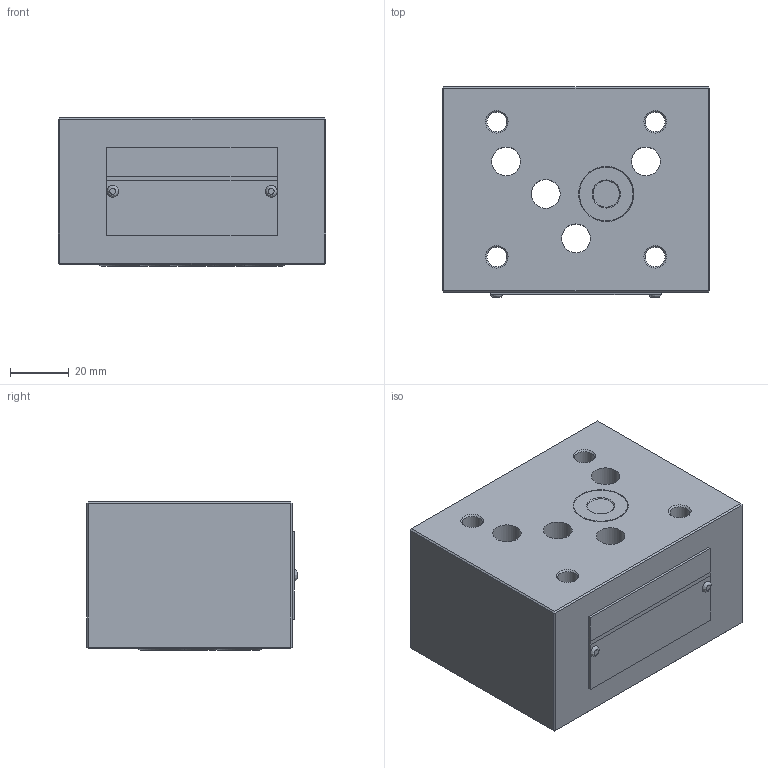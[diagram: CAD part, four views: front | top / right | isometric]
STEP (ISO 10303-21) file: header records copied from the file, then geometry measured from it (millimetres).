
FILE_DESCRIPTION(/* description */ (''),/* implementation_level */ '2;1');
FILE_NAME(/* name */ 'Z1S10C叠加式单向阀.prt.stp',/* time_stamp */ '2022-03-30T19:25:07+08:00',/* author */ (''),/* organization */ (''),/* preprocessor_version */ 'ST-DEVELOPER v16.7',/* originating_system */ 'SIEMENS PLM Software NX 12.0',/* authorisation */ '');
FILE_SCHEMA (('AUTOMOTIVE_DESIGN { 1 0 10303 214 3 1 1 1 }'));
Length unit declared in the file: millimetre
Products named in the file (1): Z1S10C叠加式单向阀
Bounding box: 91 x 71.8 x 50.5 mm (x, y, z)
Volume: 297249.8 mm3; surface area: 45337.7 mm2
Topology: 10 solids, 10 shells, 94 faces, 189 edges, 113 vertices
Faces by surface type: plane 50, cylinder 22, cone 13, torus 5, bspline 4
Full cylindrical faces by diameter (mm): 1.8 x4, 2 x2, 6.7 x4, 9.8 x5, 15.7 x5, 18.2 x1, 18.3 x1
Entity records: 2321 total; most frequent: CARTESIAN_POINT 444, DIRECTION 374, ORIENTED_EDGE 264, EDGE_LOOP 156, AXIS2_PLACEMENT_3D 151, EDGE_CURVE 132, FACE_BOUND 128, VERTEX_POINT 109
